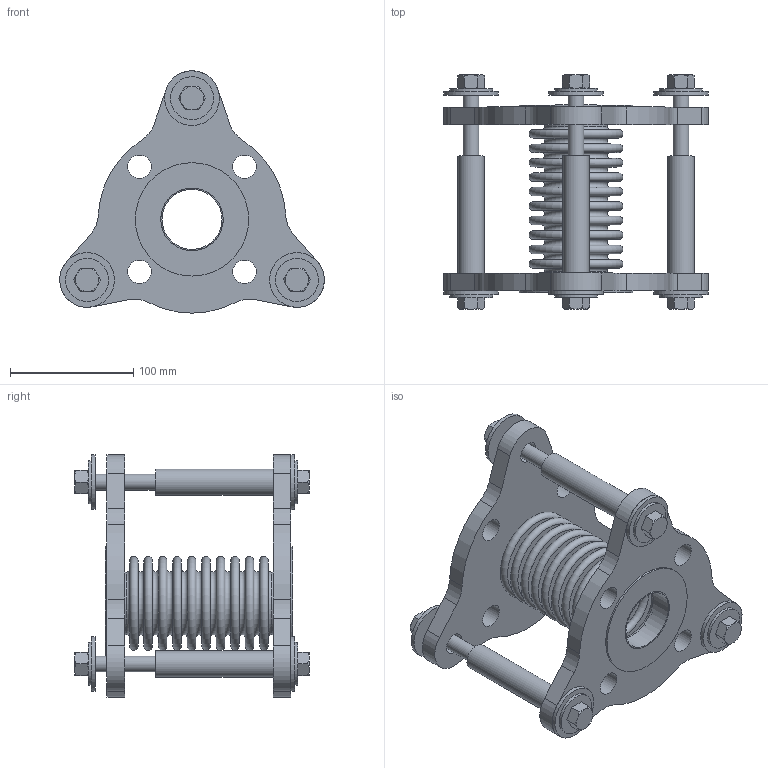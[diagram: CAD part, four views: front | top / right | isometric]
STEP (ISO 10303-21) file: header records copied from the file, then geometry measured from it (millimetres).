
FILE_DESCRIPTION(/* description */ (''),/* implementation_level */ '2;1');
FILE_NAME(/* name */ 'C:\001_Work\Designs\RFB\RFB-2x6.stp',/* time_stamp */ '2016-04-29T08:56:56-04:00',/* author */ ('rramoutar'),/* organization */ ('Mason Industries Inc.'),/* preprocessor_version */ 'ST-DEVELOPER v15.6',/* originating_system */ 'Autodesk Inventor 2015',/* authorisation */ '');
FILE_SCHEMA (('CONFIG_CONTROL_DESIGN'));
Length unit declared in the file: inch
Products named in the file (1): 2in_RFB_150FLANGE
Bounding box: 214.88 x 190.51 x 196.84 mm (x, y, z)
Volume: 850349.9 mm3; surface area: 353773.4 mm2
Topology: 24 solids, 24 shells, 325 faces, 655 edges, 423 vertices
Faces by surface type: plane 141, cylinder 82, cone 60, torus 42
Full cylindrical faces by diameter (mm): 10.592 x3, 12.7 x9, 14.287 x6, 15.799 x3, 17.462 x6, 19.05 x8, 21.336 x3, 34.925 x6, 44.45 x6, 48.768 x2, 50.8 x4, 92.075 x2
Entity records: 8218 total; most frequent: CARTESIAN_POINT 1468, DIRECTION 1374, ORIENTED_EDGE 1052, AXIS2_PLACEMENT_3D 630, EDGE_LOOP 546, EDGE_CURVE 526, VERTEX_POINT 400, STYLED_ITEM 349
